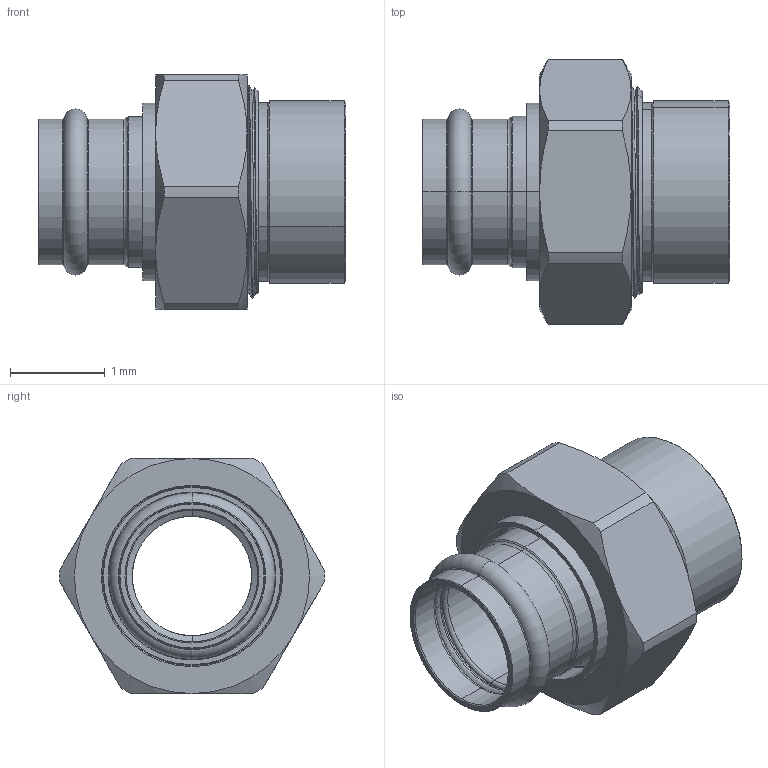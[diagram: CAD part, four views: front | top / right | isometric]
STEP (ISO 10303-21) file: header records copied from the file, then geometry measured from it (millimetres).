
FILE_DESCRIPTION(('Open CASCADE Model'),'2;1');
FILE_NAME('Open CASCADE Shape Model','2022-06-28T09:15:53',('Author'),( 'Open CASCADE'),'Open CASCADE STEP processor 7.3','Open CASCADE 7.3' ,'Unknown');
FILE_SCHEMA(('AUTOMOTIVE_DESIGN { 1 0 10303 214 1 1 1 1 }'));
Length unit declared in the file: millimetre
Products named in the file (7): Open CASCADE STEP translator 7.3 1; Open CASCADE STEP translator 7.3 1.1; Open CASCADE STEP translator 7.3 1.2; Open CASCADE STEP translator 7.3 1.3; Open CASCADE STEP translator 7.3 1.4; Open CASCADE STEP translator 7.3 1.5; Open CASCADE STEP translator 7.3 1.6
Assembly tree (6 placements, depth 2):
  Open CASCADE STEP translator 7.3 1
    Open CASCADE STEP translator 7.3 1.1
    Open CASCADE STEP translator 7.3 1.2
    Open CASCADE STEP translator 7.3 1.3
    Open CASCADE STEP translator 7.3 1.4
    Open CASCADE STEP translator 7.3 1.5
    Open CASCADE STEP translator 7.3 1.6
Bounding box: 3.25 x 2.8 x 2.48 mm (x, y, z)
Volume: 5.4 mm3; surface area: 84.8 mm2
Topology: 6 solids, 6 shells, 210 faces, 499 edges, 308 vertices
Faces by surface type: cone 78, cylinder 78, plane 27, torus 16, bspline 11
Entity records: 39874 total; most frequent: CARTESIAN_POINT 30473, DIRECTION 1560, ORIENTED_EDGE 998, PCURVE 998, DEFINITIONAL_REPRESENTATION 998, LINE 729, VECTOR 729, EDGE_CURVE 499
